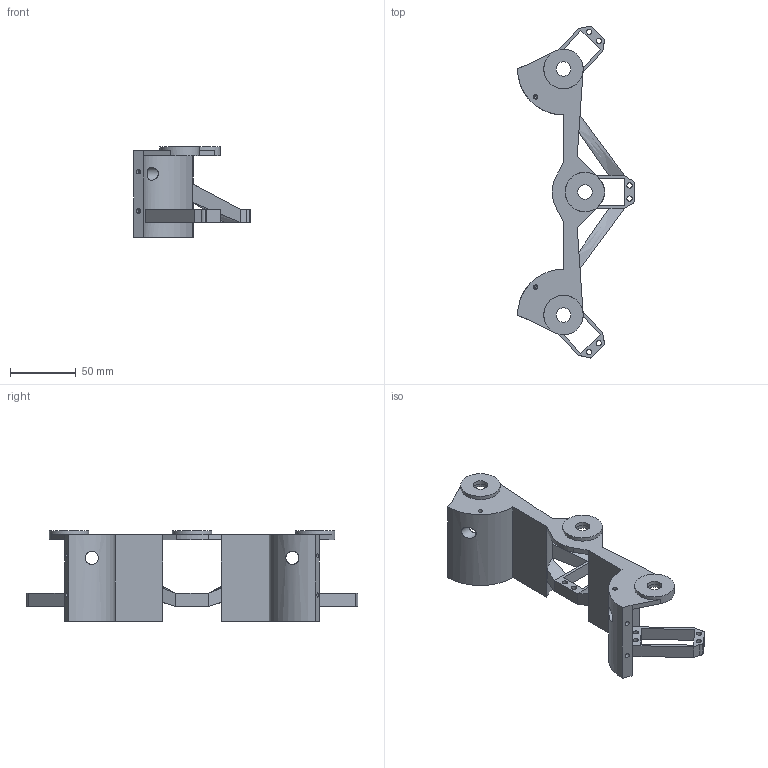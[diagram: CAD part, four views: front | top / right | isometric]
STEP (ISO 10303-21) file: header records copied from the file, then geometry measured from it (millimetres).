
FILE_DESCRIPTION(/* description */ (''),/* implementation_level */ '2;1');
FILE_NAME(/* name */ 'right_mount.step',/* time_stamp */ '2026-06-11T18:39:30-06:00',/* author */ (''),/* organization */ (''),/* preprocessor_version */ 'ST-DEVELOPER v20.1',/* originating_system */ 'Autodesk Translation Framework v15.8.0.0',/* authorisation */ '');
FILE_SCHEMA (('AUTOMOTIVE_DESIGN { 1 0 10303 214 3 1 1 }'));
Length unit declared in the file: millimetre
Products named in the file (1): right_mount
Bounding box: 89.04 x 252.8 x 69 mm (x, y, z)
Volume: 157207.8 mm3; surface area: 60029.7 mm2
Topology: 1 solids, 1 shells, 166 faces, 415 edges, 266 vertices
Faces by surface type: plane 86, cylinder 60, cone 12, bspline 8
Full cylindrical faces by diameter (mm): 2.5 x12, 3.5 x12, 4 x12, 10 x2, 11 x3, 15.1 x3, 30 x3
Entity records: 5239 total; most frequent: CARTESIAN_POINT 1126, DIRECTION 833, ORIENTED_EDGE 806, EDGE_CURVE 403, AXIS2_PLACEMENT_3D 285, VERTEX_POINT 266, LINE 263, VECTOR 263
